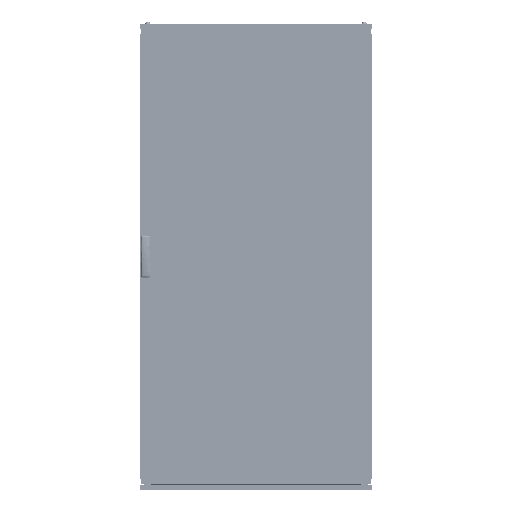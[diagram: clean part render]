
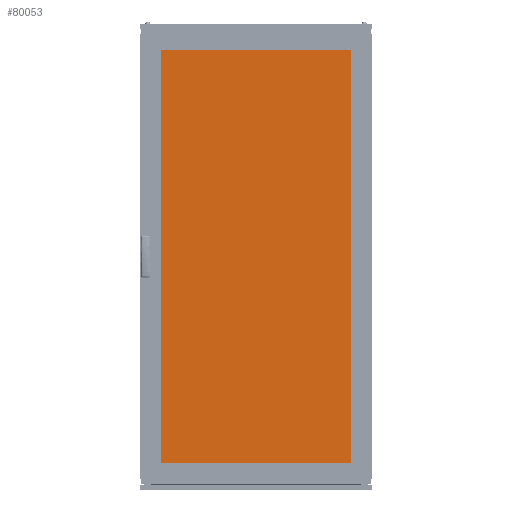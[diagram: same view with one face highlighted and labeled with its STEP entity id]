
A CAD part, top view. The second image highlights one B-rep face of the part: STEP entity #80053.
In plain terms, the highlighted planar face has unit normal (0, 0, 1).
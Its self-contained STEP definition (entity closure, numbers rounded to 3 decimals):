
#5803 = EDGE_CURVE ( 'NONE', #219673, #36111, #136811, .T. ) ;
#22083 = PLANE ( 'NONE',  #132416 ) ;
#25924 = DIRECTION ( 'NONE',  ( 1., 0., 0. ) ) ;
#26466 = CARTESIAN_POINT ( 'NONE',  ( -430., -910., 5. ) ) ;
#33167 = CARTESIAN_POINT ( 'NONE',  ( 430., 910., 5. ) ) ;
#35232 = EDGE_CURVE ( 'NONE', #36111, #183543, #90749, .T. ) ;
#36111 = VERTEX_POINT ( 'NONE', #147192 ) ;
#46889 = ORIENTED_EDGE ( 'NONE', *, *, #222129, .T. ) ;
#49697 = DIRECTION ( 'NONE',  ( 0., -1., 0. ) ) ;
#50797 = EDGE_CURVE ( 'NONE', #126211, #219673, #197081, .T. ) ;
#54604 = LINE ( 'NONE', #170438, #87288 ) ;
#58202 = CARTESIAN_POINT ( 'NONE',  ( 0., 0., 5. ) ) ;
#80053 = ADVANCED_FACE ( 'NONE', ( #228837 ), #22083, .F. ) ;
#87288 = VECTOR ( 'NONE', #90686, 1000. ) ;
#90686 = DIRECTION ( 'NONE',  ( -1., 0., 0. ) ) ;
#90749 = LINE ( 'NONE', #202954, #242404 ) ;
#98049 = CARTESIAN_POINT ( 'NONE',  ( -430., 910., 5. ) ) ;
#126211 = VERTEX_POINT ( 'NONE', #98049 ) ;
#126876 = EDGE_LOOP ( 'NONE', ( #198271, #46889, #175800, #230113 ) ) ;
#132416 = AXIS2_PLACEMENT_3D ( 'NONE', #58202, #193970, #134227 ) ;
#134227 = DIRECTION ( 'NONE',  ( -1., 0., 0. ) ) ;
#136811 = LINE ( 'NONE', #212750, #170680 ) ;
#147192 = CARTESIAN_POINT ( 'NONE',  ( 430., -910., 5. ) ) ;
#170438 = CARTESIAN_POINT ( 'NONE',  ( -430., 910., 5. ) ) ;
#170680 = VECTOR ( 'NONE', #25924, 1000. ) ;
#175800 = ORIENTED_EDGE ( 'NONE', *, *, #50797, .T. ) ;
#182642 = VECTOR ( 'NONE', #49697, 1000. ) ;
#183543 = VERTEX_POINT ( 'NONE', #33167 ) ;
#193970 = DIRECTION ( 'NONE',  ( 0., 0., -1. ) ) ;
#197081 = LINE ( 'NONE', #26466, #182642 ) ;
#198271 = ORIENTED_EDGE ( 'NONE', *, *, #35232, .T. ) ;
#202954 = CARTESIAN_POINT ( 'NONE',  ( 430., -910., 5. ) ) ;
#212750 = CARTESIAN_POINT ( 'NONE',  ( -430., -910., 5. ) ) ;
#219628 = CARTESIAN_POINT ( 'NONE',  ( -430., -910., 5. ) ) ;
#219673 = VERTEX_POINT ( 'NONE', #219628 ) ;
#222129 = EDGE_CURVE ( 'NONE', #183543, #126211, #54604, .T. ) ;
#222868 = DIRECTION ( 'NONE',  ( 0., 1., 0. ) ) ;
#228837 = FACE_OUTER_BOUND ( 'NONE', #126876, .T. ) ;
#230113 = ORIENTED_EDGE ( 'NONE', *, *, #5803, .T. ) ;
#242404 = VECTOR ( 'NONE', #222868, 1000. ) ;
